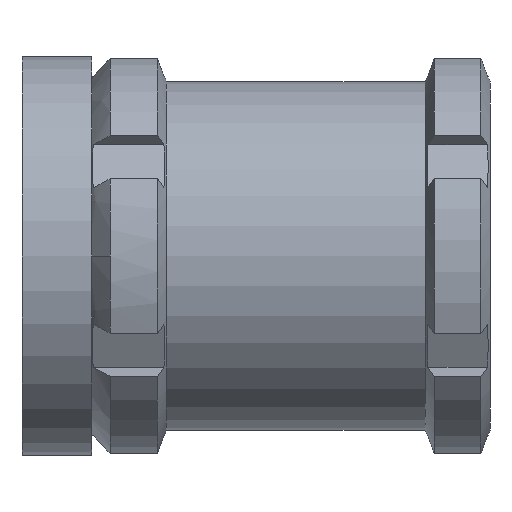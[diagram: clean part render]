
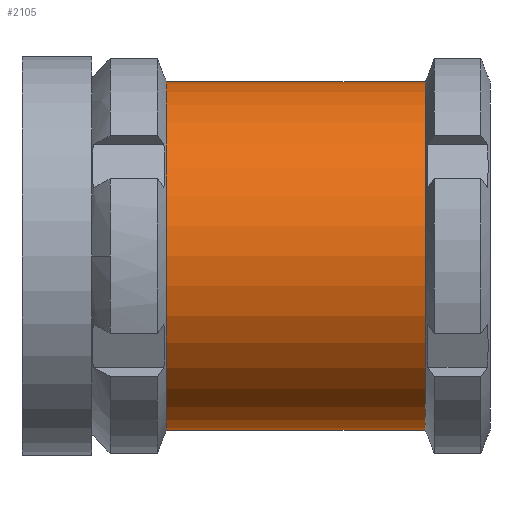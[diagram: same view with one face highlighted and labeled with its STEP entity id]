
A CAD part, left-side view. The second image highlights one B-rep face of the part: STEP entity #2105.
In plain terms, the highlighted cylindrical face has radius 35 mm (diameter 70 mm), a partial arc.
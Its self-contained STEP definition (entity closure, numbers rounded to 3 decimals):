
#55 = CARTESIAN_POINT ( 'NONE',  ( 0., -0.893, 35. ) ) ;
#77 = AXIS2_PLACEMENT_3D ( 'NONE', #339, #3251, #1934 ) ;
#106 = DIRECTION ( 'NONE',  ( 0., -1., 0. ) ) ;
#204 = ORIENTED_EDGE ( 'NONE', *, *, #2424, .F. ) ;
#225 = VERTEX_POINT ( 'NONE', #2564 ) ;
#240 = VERTEX_POINT ( 'NONE', #1543 ) ;
#303 = CARTESIAN_POINT ( 'NONE',  ( 0., 0., 35. ) ) ;
#339 = CARTESIAN_POINT ( 'NONE',  ( 0., 52., 0. ) ) ;
#480 = CARTESIAN_POINT ( 'NONE',  ( 0., -0.893, 0. ) ) ;
#548 = CYLINDRICAL_SURFACE ( 'NONE', #3097, 35. ) ;
#657 = AXIS2_PLACEMENT_3D ( 'NONE', #3351, #1814, #1495 ) ;
#1024 = VECTOR ( 'NONE', #106, 1000. ) ;
#1231 = EDGE_LOOP ( 'NONE', ( #3153, #2557, #204, #1268 ) ) ;
#1268 = ORIENTED_EDGE ( 'NONE', *, *, #3008, .F. ) ;
#1439 = CARTESIAN_POINT ( 'NONE',  ( 0., 52., 35. ) ) ;
#1495 = DIRECTION ( 'NONE',  ( 0., 0., -1. ) ) ;
#1543 = CARTESIAN_POINT ( 'NONE',  ( 0., 52., -35. ) ) ;
#1692 = CIRCLE ( 'NONE', #77, 35. ) ;
#1814 = DIRECTION ( 'NONE',  ( 0., -1., 0. ) ) ;
#1821 = EDGE_CURVE ( 'NONE', #2210, #1899, #2450, .T. ) ;
#1862 = EDGE_CURVE ( 'NONE', #240, #2210, #1692, .T. ) ;
#1899 = VERTEX_POINT ( 'NONE', #303 ) ;
#1934 = DIRECTION ( 'NONE',  ( 0., 0., -1. ) ) ;
#2105 = ADVANCED_FACE ( 'NONE', ( #2857 ), #548, .T. ) ;
#2153 = CIRCLE ( 'NONE', #657, 35. ) ;
#2210 = VERTEX_POINT ( 'NONE', #1439 ) ;
#2334 = DIRECTION ( 'NONE',  ( 0., -1., 0. ) ) ;
#2424 = EDGE_CURVE ( 'NONE', #225, #1899, #2153, .T. ) ;
#2450 = LINE ( 'NONE', #55, #1024 ) ;
#2557 = ORIENTED_EDGE ( 'NONE', *, *, #1821, .T. ) ;
#2564 = CARTESIAN_POINT ( 'NONE',  ( 0., 0., -35. ) ) ;
#2634 = DIRECTION ( 'NONE',  ( 0., -1., 0. ) ) ;
#2857 = FACE_OUTER_BOUND ( 'NONE', #1231, .T. ) ;
#2939 = CARTESIAN_POINT ( 'NONE',  ( 0., -0.893, -35. ) ) ;
#3008 = EDGE_CURVE ( 'NONE', #240, #225, #3440, .T. ) ;
#3097 = AXIS2_PLACEMENT_3D ( 'NONE', #480, #2334, #3187 ) ;
#3153 = ORIENTED_EDGE ( 'NONE', *, *, #1862, .T. ) ;
#3187 = DIRECTION ( 'NONE',  ( 0., 0., -1. ) ) ;
#3251 = DIRECTION ( 'NONE',  ( 0., -1., 0. ) ) ;
#3320 = VECTOR ( 'NONE', #2634, 1000. ) ;
#3351 = CARTESIAN_POINT ( 'NONE',  ( 0., 0., 0. ) ) ;
#3440 = LINE ( 'NONE', #2939, #3320 ) ;
